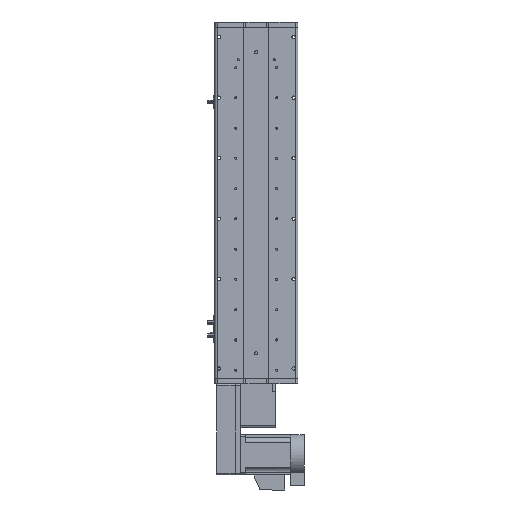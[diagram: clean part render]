
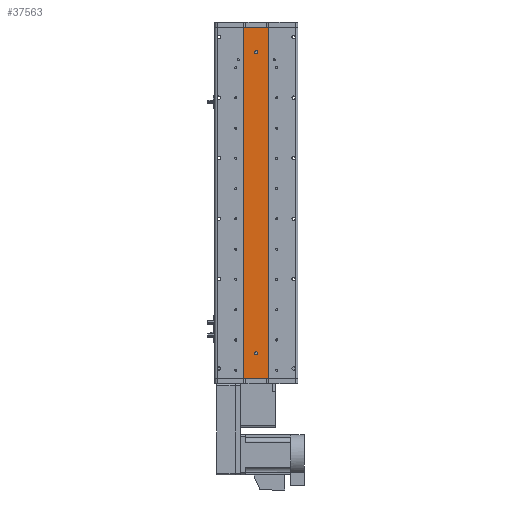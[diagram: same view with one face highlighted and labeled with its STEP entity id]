
A CAD part, front view. The second image highlights one B-rep face of the part: STEP entity #37563.
In plain terms, the highlighted planar face has unit normal (0, -1, 0).
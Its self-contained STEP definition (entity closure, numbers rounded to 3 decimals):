
#46 = DIRECTION ( 'NONE',  ( 0., 1., 0. ) ) ;
#697 = CARTESIAN_POINT ( 'NONE',  ( 25., 1., -348.5 ) ) ;
#911 = VERTEX_POINT ( 'NONE', #23548 ) ;
#1557 = DIRECTION ( 'NONE',  ( 1., 0., 0. ) ) ;
#1904 = EDGE_CURVE ( 'NONE', #27268, #39519, #45558, .T. ) ;
#1964 = EDGE_LOOP ( 'NONE', ( #31826, #59804 ) ) ;
#3234 = AXIS2_PLACEMENT_3D ( 'NONE', #4751, #46, #14187 ) ;
#4105 = LINE ( 'NONE', #34437, #49788 ) ;
#4751 = CARTESIAN_POINT ( 'NONE',  ( 25., 1., 348.5 ) ) ;
#6453 = AXIS2_PLACEMENT_3D ( 'NONE', #35154, #6958, #39910 ) ;
#6717 = AXIS2_PLACEMENT_3D ( 'NONE', #24242, #57288, #28922 ) ;
#6958 = DIRECTION ( 'NONE',  ( 0., 1., 0. ) ) ;
#7793 = DIRECTION ( 'NONE',  ( 1., 0., 0. ) ) ;
#8124 = EDGE_CURVE ( 'NONE', #41137, #911, #22656, .T. ) ;
#8214 = ORIENTED_EDGE ( 'NONE', *, *, #1904, .T. ) ;
#11339 = CARTESIAN_POINT ( 'NONE',  ( 0., 1., 295.5 ) ) ;
#11773 = ORIENTED_EDGE ( 'NONE', *, *, #29600, .F. ) ;
#14187 = DIRECTION ( 'NONE',  ( 0., 0., 1. ) ) ;
#14235 = EDGE_CURVE ( 'NONE', #54457, #15875, #47337, .T. ) ;
#15875 = VERTEX_POINT ( 'NONE', #32331 ) ;
#17306 = CIRCLE ( 'NONE', #22848, 3. ) ;
#18134 = ORIENTED_EDGE ( 'NONE', *, *, #29121, .T. ) ;
#18256 = VERTEX_POINT ( 'NONE', #26938 ) ;
#20049 = DIRECTION ( 'NONE',  ( 0., 1., 0. ) ) ;
#20991 = EDGE_CURVE ( 'NONE', #15875, #54457, #17306, .T. ) ;
#22656 = LINE ( 'NONE', #40741, #49226 ) ;
#22848 = AXIS2_PLACEMENT_3D ( 'NONE', #53013, #24694, #57766 ) ;
#23548 = CARTESIAN_POINT ( 'NONE',  ( 25., 1., 348.5 ) ) ;
#23631 = LINE ( 'NONE', #37091, #34677 ) ;
#23765 = EDGE_LOOP ( 'NONE', ( #18134, #8214 ) ) ;
#24242 = CARTESIAN_POINT ( 'NONE',  ( 0., 1., 298.5 ) ) ;
#24694 = DIRECTION ( 'NONE',  ( 0., 1., 0. ) ) ;
#24997 = EDGE_CURVE ( 'NONE', #18256, #31298, #4105, .T. ) ;
#25243 = LINE ( 'NONE', #56617, #48902 ) ;
#25869 = ORIENTED_EDGE ( 'NONE', *, *, #59707, .T. ) ;
#26938 = CARTESIAN_POINT ( 'NONE',  ( -25., 1., -348.5 ) ) ;
#27058 = AXIS2_PLACEMENT_3D ( 'NONE', #48328, #20049, #53098 ) ;
#27268 = VERTEX_POINT ( 'NONE', #33825 ) ;
#27580 = DIRECTION ( 'NONE',  ( 0., 0., -1. ) ) ;
#28922 = DIRECTION ( 'NONE',  ( 0., 0., 1. ) ) ;
#29121 = EDGE_CURVE ( 'NONE', #39519, #27268, #34522, .T. ) ;
#29600 = EDGE_CURVE ( 'NONE', #911, #31298, #25243, .T. ) ;
#31298 = VERTEX_POINT ( 'NONE', #697 ) ;
#31826 = ORIENTED_EDGE ( 'NONE', *, *, #14235, .T. ) ;
#32331 = CARTESIAN_POINT ( 'NONE',  ( 0., 1., -295.5 ) ) ;
#33825 = CARTESIAN_POINT ( 'NONE',  ( 0., 1., 301.5 ) ) ;
#34437 = CARTESIAN_POINT ( 'NONE',  ( 25., 1., -348.5 ) ) ;
#34522 = CIRCLE ( 'NONE', #6717, 3. ) ;
#34677 = VECTOR ( 'NONE', #27580, 1000. ) ;
#35154 = CARTESIAN_POINT ( 'NONE',  ( 0., 1., -298.5 ) ) ;
#37091 = CARTESIAN_POINT ( 'NONE',  ( -25., 1., 348.5 ) ) ;
#37563 = ADVANCED_FACE ( 'NONE', ( #59888, #45825, #47313 ), #42454, .F. ) ;
#38977 = CARTESIAN_POINT ( 'NONE',  ( 0., 1., -301.5 ) ) ;
#39519 = VERTEX_POINT ( 'NONE', #11339 ) ;
#39910 = DIRECTION ( 'NONE',  ( 0., 0., 1. ) ) ;
#40741 = CARTESIAN_POINT ( 'NONE',  ( 25., 1., 348.5 ) ) ;
#41137 = VERTEX_POINT ( 'NONE', #41658 ) ;
#41658 = CARTESIAN_POINT ( 'NONE',  ( -25., 1., 348.5 ) ) ;
#42454 = PLANE ( 'NONE',  #3234 ) ;
#45142 = ORIENTED_EDGE ( 'NONE', *, *, #24997, .T. ) ;
#45558 = CIRCLE ( 'NONE', #27058, 3. ) ;
#45814 = ORIENTED_EDGE ( 'NONE', *, *, #8124, .F. ) ;
#45825 = FACE_BOUND ( 'NONE', #23765, .T. ) ;
#47313 = FACE_OUTER_BOUND ( 'NONE', #58818, .T. ) ;
#47337 = CIRCLE ( 'NONE', #6453, 3. ) ;
#48328 = CARTESIAN_POINT ( 'NONE',  ( 0., 1., 298.5 ) ) ;
#48902 = VECTOR ( 'NONE', #56412, 1000. ) ;
#49226 = VECTOR ( 'NONE', #7793, 1000. ) ;
#49788 = VECTOR ( 'NONE', #1557, 1000. ) ;
#53013 = CARTESIAN_POINT ( 'NONE',  ( 0., 1., -298.5 ) ) ;
#53098 = DIRECTION ( 'NONE',  ( 0., 0., 1. ) ) ;
#54457 = VERTEX_POINT ( 'NONE', #38977 ) ;
#56412 = DIRECTION ( 'NONE',  ( 0., 0., -1. ) ) ;
#56617 = CARTESIAN_POINT ( 'NONE',  ( 25., 1., 348.5 ) ) ;
#57288 = DIRECTION ( 'NONE',  ( 0., 1., 0. ) ) ;
#57766 = DIRECTION ( 'NONE',  ( 0., 0., 1. ) ) ;
#58818 = EDGE_LOOP ( 'NONE', ( #45142, #11773, #45814, #25869 ) ) ;
#59707 = EDGE_CURVE ( 'NONE', #41137, #18256, #23631, .T. ) ;
#59804 = ORIENTED_EDGE ( 'NONE', *, *, #20991, .T. ) ;
#59888 = FACE_BOUND ( 'NONE', #1964, .T. ) ;
